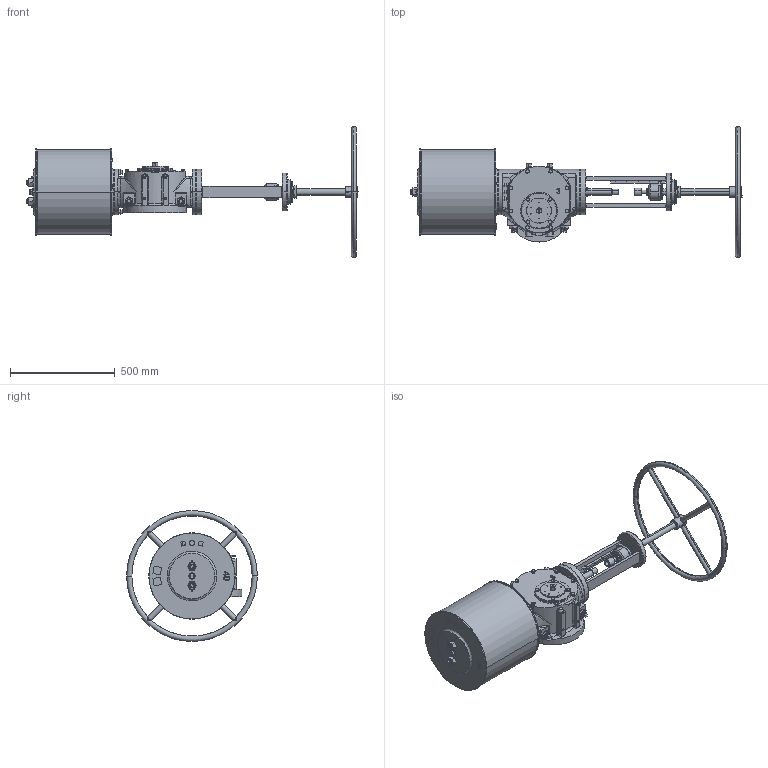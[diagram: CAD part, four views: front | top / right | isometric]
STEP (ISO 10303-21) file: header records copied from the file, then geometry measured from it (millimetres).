
FILE_DESCRIPTION (( 'STEP AP203' ), '1' );
FILE_NAME ('VTS3-400-MSD.STEP', '2023-01-01T09:14:02', ( '' ), ( '' ), 'SwSTEP 2.0', 'SolidWorks 2020', '' );
FILE_SCHEMA (( 'CONFIG_CONTROL_DESIGN' ));
Length unit declared in the file: millimetre
Products named in the file (1): VTS3-400-MSD
Bounding box: 1587.03 x 625 x 625 mm (x, y, z)
Volume: 70883368 mm3; surface area: 2254992.9 mm2
Topology: 3 solids, 21 shells, 2608 faces, 6590 edges, 4115 vertices
Faces by surface type: plane 1128, cylinder 796, cone 507, bspline 141, torus 36
Entity records: 95283 total; most frequent: CARTESIAN_POINT 34127, ORIENTED_EDGE 12978, DIRECTION 12586, EDGE_CURVE 6489, AXIS2_PLACEMENT_3D 4925, VERTEX_POINT 4115, EDGE_LOOP 2916, VECTOR 2736
